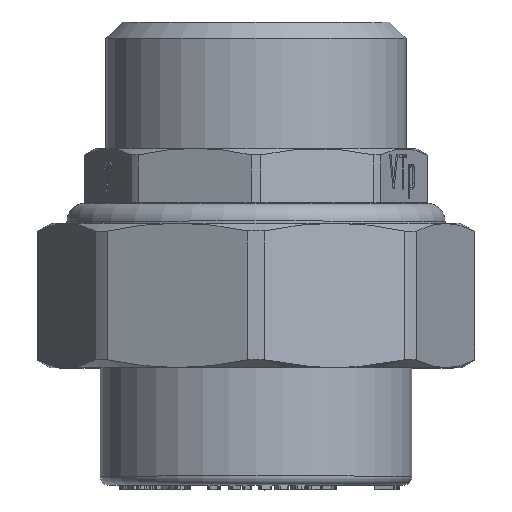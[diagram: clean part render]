
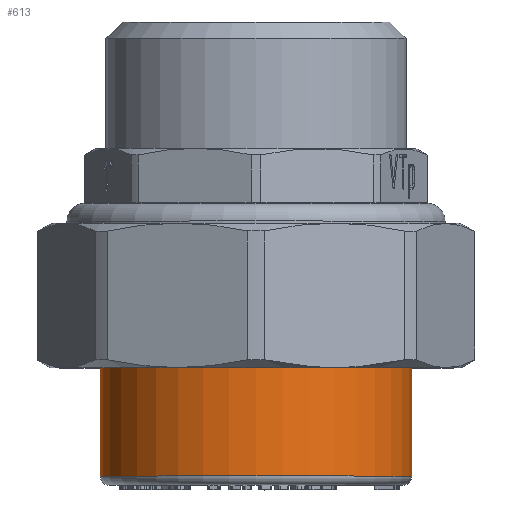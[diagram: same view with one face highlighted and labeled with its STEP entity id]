
A CAD part, top view. The second image highlights one B-rep face of the part: STEP entity #613.
In plain terms, the highlighted cylindrical face has radius 17.25 mm (diameter 34.5 mm), a full revolution.
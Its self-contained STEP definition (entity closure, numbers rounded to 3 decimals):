
#613=ADVANCED_FACE('',(#4376,#4378),#4380,.T.);
#4376=FACE_OUTER_BOUND('',#4377,.T.);
#4377=EDGE_LOOP('',(#10458));
#4378=FACE_OUTER_BOUND('',#4379,.T.);
#4379=EDGE_LOOP('',(#10459));
#4380=CYLINDRICAL_SURFACE('',#4381,17.25);
#4381=AXIS2_PLACEMENT_3D('',#4382,#4383,#4384);
#4382=CARTESIAN_POINT('',(0.,0.,0.));
#4383=DIRECTION('',(0.,1.,0.));
#4384=DIRECTION('',(-1.,0.,0.));
#10458=ORIENTED_EDGE('',*,*,#13924,.F.);
#10459=ORIENTED_EDGE('',*,*,#13921,.T.);
#13921=EDGE_CURVE('',#17199,#17199,#17200,.T.);
#13924=EDGE_CURVE('',#17204,#17204,#17205,.T.);
#17199=VERTEX_POINT('',#23994);
#17200=CIRCLE('',#23995,17.25);
#17204=VERTEX_POINT('',#24007);
#17205=CIRCLE('',#24008,17.25);
#23994=CARTESIAN_POINT('',(-17.25,1.,0.));
#23995=AXIS2_PLACEMENT_3D('',#23996,#23997,#23998);
#23996=CARTESIAN_POINT('',(0.,1.,0.));
#23997=DIRECTION('',(0.,1.,0.));
#23998=DIRECTION('',(-1.,0.,0.));
#24007=CARTESIAN_POINT('',(-17.25,16.5,0.));
#24008=AXIS2_PLACEMENT_3D('',#24009,#24010,#24011);
#24009=CARTESIAN_POINT('',(0.,16.5,0.));
#24010=DIRECTION('',(0.,1.,0.));
#24011=DIRECTION('',(-1.,0.,0.));
